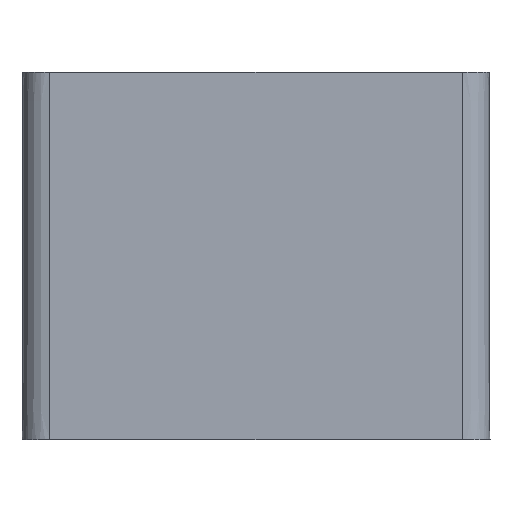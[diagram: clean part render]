
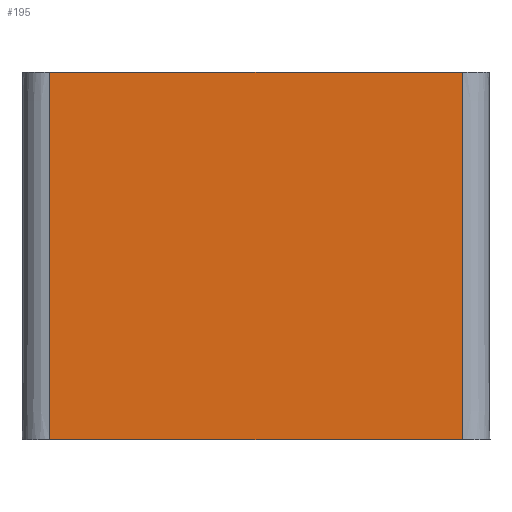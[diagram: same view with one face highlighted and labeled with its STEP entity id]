
A CAD part, front view. The second image highlights one B-rep face of the part: STEP entity #195.
In plain terms, the highlighted planar face has unit normal (0, -1, 0.003).
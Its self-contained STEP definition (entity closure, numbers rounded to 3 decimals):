
#96 = EDGE_CURVE ( 'NONE', #114, #980, #581, .T. ) ;
#103 = DIRECTION ( 'NONE',  ( 0., -0.003, -1. ) ) ;
#114 = VERTEX_POINT ( 'NONE', #570 ) ;
#195 = ADVANCED_FACE ( 'NONE', ( #1914 ), #226, .T. ) ;
#208 = CARTESIAN_POINT ( 'NONE',  ( 11.909, -12.491, -20. ) ) ;
#226 = PLANE ( 'NONE',  #1407 ) ;
#258 = VERTEX_POINT ( 'NONE', #402 ) ;
#298 = EDGE_LOOP ( 'NONE', ( #917, #1759, #1797, #1086 ) ) ;
#387 = CARTESIAN_POINT ( 'NONE',  ( 0.759, -12.465, -10.075 ) ) ;
#402 = CARTESIAN_POINT ( 'NONE',  ( 11.909, -12.439, -0.15 ) ) ;
#427 = LINE ( 'NONE', #2136, #527 ) ;
#448 = EDGE_CURVE ( 'NONE', #543, #258, #465, .T. ) ;
#465 = LINE ( 'NONE', #2180, #600 ) ;
#477 = CARTESIAN_POINT ( 'NONE',  ( -10.391, -12.491, -20. ) ) ;
#527 = VECTOR ( 'NONE', #1286, 1000. ) ;
#543 = VERTEX_POINT ( 'NONE', #208 ) ;
#570 = CARTESIAN_POINT ( 'NONE',  ( -10.391, -12.439, -0.15 ) ) ;
#581 = LINE ( 'NONE', #1933, #1521 ) ;
#600 = VECTOR ( 'NONE', #1339, 1000. ) ;
#756 = EDGE_CURVE ( 'NONE', #114, #258, #427, .T. ) ;
#787 = DIRECTION ( 'NONE',  ( 0., -1., 0.003 ) ) ;
#838 = LINE ( 'NONE', #1513, #1946 ) ;
#917 = ORIENTED_EDGE ( 'NONE', *, *, #96, .T. ) ;
#944 = EDGE_CURVE ( 'NONE', #543, #980, #838, .T. ) ;
#980 = VERTEX_POINT ( 'NONE', #477 ) ;
#1086 = ORIENTED_EDGE ( 'NONE', *, *, #756, .F. ) ;
#1193 = DIRECTION ( 'NONE',  ( -1., 0., 0. ) ) ;
#1286 = DIRECTION ( 'NONE',  ( 1., 0., 0. ) ) ;
#1339 = DIRECTION ( 'NONE',  ( 0., 0.003, 1. ) ) ;
#1407 = AXIS2_PLACEMENT_3D ( 'NONE', #387, #787, #103 ) ;
#1433 = DIRECTION ( 'NONE',  ( 0., -0.003, -1. ) ) ;
#1513 = CARTESIAN_POINT ( 'NONE',  ( 0.759, -12.491, -20. ) ) ;
#1521 = VECTOR ( 'NONE', #1433, 1000. ) ;
#1759 = ORIENTED_EDGE ( 'NONE', *, *, #944, .F. ) ;
#1797 = ORIENTED_EDGE ( 'NONE', *, *, #448, .T. ) ;
#1914 = FACE_OUTER_BOUND ( 'NONE', #298, .T. ) ;
#1933 = CARTESIAN_POINT ( 'NONE',  ( -10.391, -12.465, -10.075 ) ) ;
#1946 = VECTOR ( 'NONE', #1193, 1000. ) ;
#2136 = CARTESIAN_POINT ( 'NONE',  ( 0.759, -12.439, -0.15 ) ) ;
#2180 = CARTESIAN_POINT ( 'NONE',  ( 11.909, -12.465, -10.075 ) ) ;
